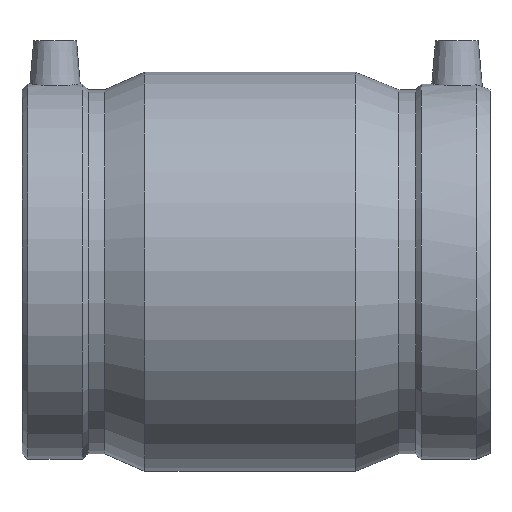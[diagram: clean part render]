
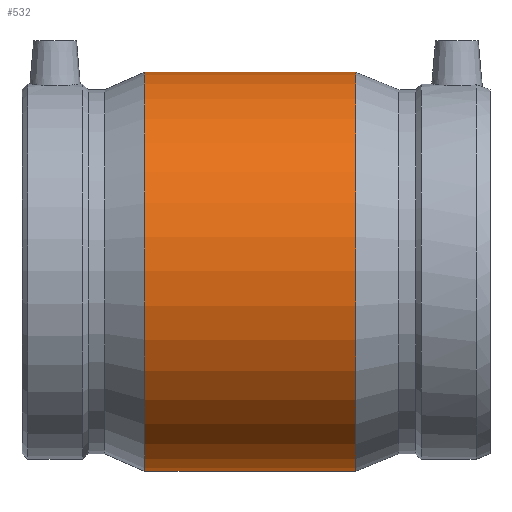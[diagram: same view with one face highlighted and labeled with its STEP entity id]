
A CAD part, top view. The second image highlights one B-rep face of the part: STEP entity #532.
In plain terms, the highlighted cylindrical face has radius 69.977 mm (diameter 139.954 mm), a full revolution.
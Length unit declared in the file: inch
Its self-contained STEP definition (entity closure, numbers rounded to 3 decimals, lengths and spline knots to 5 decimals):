
#51=LINE('',#1011,#73);
#73=VECTOR('',#761,2.755);
#89=CYLINDRICAL_SURFACE('',#612,2.755);
#114=FACE_OUTER_BOUND('',#152,.T.);
#152=EDGE_LOOP('',(#430,#431,#432,#433,#434,#435));
#194=CIRCLE('',#610,2.755);
#195=CIRCLE('',#611,2.755);
#196=CIRCLE('',#613,2.755);
#197=CIRCLE('',#614,2.755);
#248=VERTEX_POINT('',#1001);
#249=VERTEX_POINT('',#1002);
#250=VERTEX_POINT('',#1007);
#251=VERTEX_POINT('',#1008);
#314=EDGE_CURVE('',#248,#249,#194,.T.);
#315=EDGE_CURVE('',#249,#248,#195,.T.);
#317=EDGE_CURVE('',#250,#251,#196,.T.);
#318=EDGE_CURVE('',#251,#250,#197,.T.);
#319=EDGE_CURVE('',#251,#249,#51,.T.);
#430=ORIENTED_EDGE('',*,*,#317,.F.);
#431=ORIENTED_EDGE('',*,*,#318,.F.);
#432=ORIENTED_EDGE('',*,*,#319,.T.);
#433=ORIENTED_EDGE('',*,*,#315,.T.);
#434=ORIENTED_EDGE('',*,*,#314,.T.);
#435=ORIENTED_EDGE('',*,*,#319,.F.);
#532=ADVANCED_FACE('',(#114),#89,.T.);
#610=AXIS2_PLACEMENT_3D('',#1003,#750,#751);
#611=AXIS2_PLACEMENT_3D('',#1004,#752,#753);
#612=AXIS2_PLACEMENT_3D('',#1006,#755,#756);
#613=AXIS2_PLACEMENT_3D('',#1009,#757,#758);
#614=AXIS2_PLACEMENT_3D('',#1010,#759,#760);
#750=DIRECTION('center_axis',(1.,0.,0.));
#751=DIRECTION('ref_axis',(0.,0.,-1.));
#752=DIRECTION('center_axis',(1.,0.,0.));
#753=DIRECTION('ref_axis',(0.,0.,-1.));
#755=DIRECTION('center_axis',(1.,0.,0.));
#756=DIRECTION('ref_axis',(0.,1.,0.));
#757=DIRECTION('center_axis',(1.,0.,0.));
#758=DIRECTION('ref_axis',(0.,0.,-1.));
#759=DIRECTION('center_axis',(1.,0.,0.));
#760=DIRECTION('ref_axis',(0.,0.,-1.));
#761=DIRECTION('',(-1.,0.,0.));
#1001=CARTESIAN_POINT('',(-1.5335,2.755,0.));
#1002=CARTESIAN_POINT('',(-1.5335,-2.755,0.));
#1003=CARTESIAN_POINT('Origin',(-1.5335,0.,0.));
#1004=CARTESIAN_POINT('Origin',(-1.5335,0.,0.));
#1006=CARTESIAN_POINT('Origin',(-0.08,0.,0.));
#1007=CARTESIAN_POINT('',(1.3735,2.755,0.));
#1008=CARTESIAN_POINT('',(1.3735,-2.755,0.));
#1009=CARTESIAN_POINT('Origin',(1.3735,0.,0.));
#1010=CARTESIAN_POINT('Origin',(1.3735,0.,0.));
#1011=CARTESIAN_POINT('',(-0.08,-2.755,0.));
